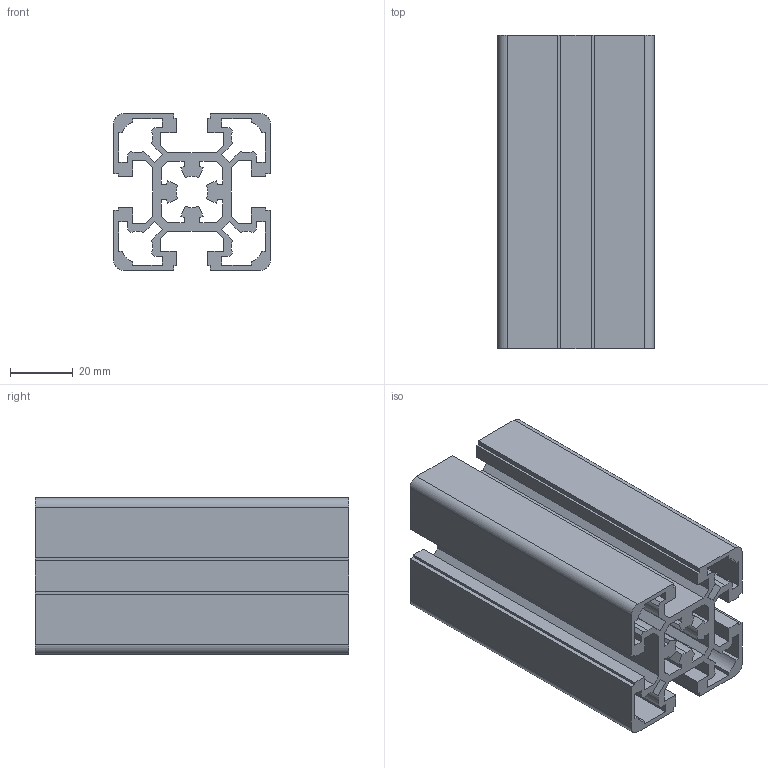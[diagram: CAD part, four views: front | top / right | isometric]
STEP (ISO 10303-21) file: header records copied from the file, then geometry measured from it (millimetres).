
FILE_DESCRIPTION (( 'STEP AP203' ), '1' );
FILE_NAME ('0110P5050.STEP', '2024-03-01T13:01:59', ( 'Windows-Benutzer' ), ( '' ), 'SwSTEP 2.0', 'SolidWorks 2023', '' );
FILE_SCHEMA (( 'CONFIG_CONTROL_DESIGN' ));
Length unit declared in the file: millimetre
Products named in the file (1): 0110P5050
Bounding box: 50 x 100 x 50 mm (x, y, z)
Volume: 93369.6 mm3; surface area: 75112.8 mm2
Topology: 1 solids, 1 shells, 173 faces, 513 edges, 342 vertices
Faces by surface type: plane 150, cylinder 23
Entity records: 5810 total; most frequent: CARTESIAN_POINT 1029, ORIENTED_EDGE 1026, DIRECTION 907, EDGE_CURVE 513, LINE 467, VECTOR 467, VERTEX_POINT 342, AXIS2_PLACEMENT_3D 220
